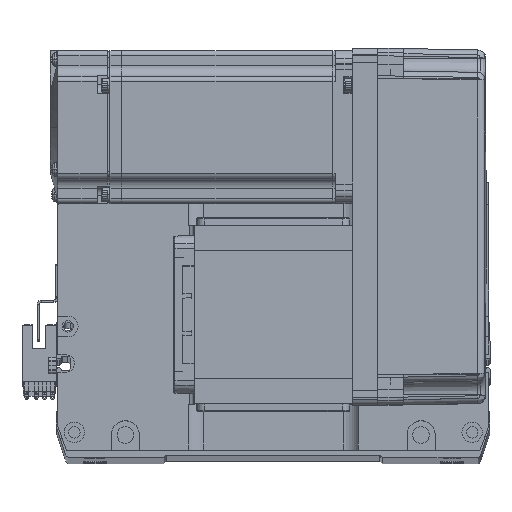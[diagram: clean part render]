
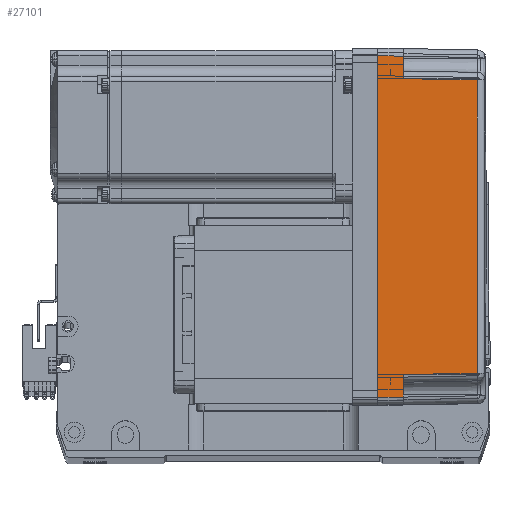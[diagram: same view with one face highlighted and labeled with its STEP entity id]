
A CAD part, top view. The second image highlights one B-rep face of the part: STEP entity #27101.
In plain terms, the highlighted planar face has unit normal (0.018, 0, 1) as drawn and (0, -1, 0.017) by its records, which use the part's own axes.
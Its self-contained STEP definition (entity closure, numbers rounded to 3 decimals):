
#195 = VERTEX_POINT ( 'NONE', #52566 ) ;
#225 = ORIENTED_EDGE ( 'NONE', *, *, #7938, .T. ) ;
#462 = CARTESIAN_POINT ( 'NONE',  ( 58., -35.825, 10. ) ) ;
#3130 = CARTESIAN_POINT ( 'NONE',  ( -57.495, -35.32, 38.985 ) ) ;
#4569 = CARTESIAN_POINT ( 'NONE',  ( 58., -35.825, 10. ) ) ;
#6523 = ORIENTED_EDGE ( 'NONE', *, *, #12428, .F. ) ;
#7794 = VERTEX_POINT ( 'NONE', #23386 ) ;
#7938 = EDGE_CURVE ( 'NONE', #195, #43065, #32891, .T. ) ;
#8952 = DIRECTION ( 'NONE',  ( 0.017, 0.017, 1. ) ) ;
#9005 = CARTESIAN_POINT ( 'NONE',  ( 70., -35.825, 10. ) ) ;
#9015 = CARTESIAN_POINT ( 'NONE',  ( -58., -35.825, 10. ) ) ;
#9218 = DIRECTION ( 'NONE',  ( -1., 0., 0. ) ) ;
#9553 = EDGE_CURVE ( 'NONE', #43288, #14108, #22553, .T. ) ;
#10868 = DIRECTION ( 'NONE',  ( -1., 0., 0. ) ) ;
#11189 = VECTOR ( 'NONE', #30077, 1000. ) ;
#12428 = EDGE_CURVE ( 'NONE', #195, #43288, #56541, .T. ) ;
#13372 = VECTOR ( 'NONE', #15906, 1000. ) ;
#14108 = VERTEX_POINT ( 'NONE', #28921 ) ;
#15906 = DIRECTION ( 'NONE',  ( -0.017, 0.017, 1. ) ) ;
#17460 = VECTOR ( 'NONE', #28997, 1000. ) ;
#18122 = CARTESIAN_POINT ( 'NONE',  ( 70., -36., 0. ) ) ;
#18382 = CARTESIAN_POINT ( 'NONE',  ( 57.495, -35.32, 38.985 ) ) ;
#18739 = VERTEX_POINT ( 'NONE', #9015 ) ;
#19005 = ORIENTED_EDGE ( 'NONE', *, *, #41580, .T. ) ;
#20267 = CARTESIAN_POINT ( 'NONE',  ( -67., -36., 0. ) ) ;
#20896 = CARTESIAN_POINT ( 'NONE',  ( 70., -35.825, 10. ) ) ;
#20923 = CARTESIAN_POINT ( 'NONE',  ( 67., -36., 0. ) ) ;
#22553 = LINE ( 'NONE', #48592, #25685 ) ;
#23386 = CARTESIAN_POINT ( 'NONE',  ( 57.495, -35.32, 38.985 ) ) ;
#23780 = CARTESIAN_POINT ( 'NONE',  ( 66.826, -35.825, 10. ) ) ;
#23934 = EDGE_CURVE ( 'NONE', #63087, #18739, #26843, .T. ) ;
#25685 = VECTOR ( 'NONE', #8952, 1000. ) ;
#25986 = B_SPLINE_CURVE_WITH_KNOTS ( 'NONE', 3,
 ( #18382, #48001, #42555, #53265 ),
 .UNSPECIFIED., .F., .F.,
 ( 4, 4 ),
 ( 0., 1. ),
 .UNSPECIFIED. ) ;
#26843 = LINE ( 'NONE', #39648, #17460 ) ;
#27101 = ADVANCED_FACE ( 'NONE', ( #40416 ), #28792, .T. ) ;
#28339 = EDGE_LOOP ( 'NONE', ( #225, #48020, #38127, #19005, #64681, #40634, #54933, #6523 ) ) ;
#28792 = PLANE ( 'NONE',  #64184 ) ;
#28921 = CARTESIAN_POINT ( 'NONE',  ( -66.826, -35.825, 10. ) ) ;
#28997 = DIRECTION ( 'NONE',  ( -0.017, -0.017, -1. ) ) ;
#30077 = DIRECTION ( 'NONE',  ( -0.017, 0.017, 1. ) ) ;
#32118 = VERTEX_POINT ( 'NONE', #4569 ) ;
#32891 = LINE ( 'NONE', #20923, #13372 ) ;
#33372 = DIRECTION ( 'NONE',  ( 0., -0.017, -1. ) ) ;
#34324 = LINE ( 'NONE', #9005, #49916 ) ;
#35376 = VECTOR ( 'NONE', #10868, 1000. ) ;
#38127 = ORIENTED_EDGE ( 'NONE', *, *, #60395, .T. ) ;
#39648 = CARTESIAN_POINT ( 'NONE',  ( -57.495, -35.32, 38.985 ) ) ;
#40416 = FACE_OUTER_BOUND ( 'NONE', #28339, .T. ) ;
#40634 = ORIENTED_EDGE ( 'NONE', *, *, #60393, .T. ) ;
#41580 = EDGE_CURVE ( 'NONE', #7794, #63087, #25986, .T. ) ;
#42555 = CARTESIAN_POINT ( 'NONE',  ( -19.165, -35.316, 39.181 ) ) ;
#43065 = VERTEX_POINT ( 'NONE', #23780 ) ;
#43288 = VERTEX_POINT ( 'NONE', #20267 ) ;
#44027 = VECTOR ( 'NONE', #48023, 1000. ) ;
#45642 = EDGE_CURVE ( 'NONE', #43065, #32118, #34324, .T. ) ;
#48001 = CARTESIAN_POINT ( 'NONE',  ( 19.165, -35.316, 39.181 ) ) ;
#48020 = ORIENTED_EDGE ( 'NONE', *, *, #45642, .T. ) ;
#48023 = DIRECTION ( 'NONE',  ( -1., 0., 0. ) ) ;
#48592 = CARTESIAN_POINT ( 'NONE',  ( -66.959, -35.958, 2.39 ) ) ;
#48611 = LINE ( 'NONE', #462, #11189 ) ;
#49916 = VECTOR ( 'NONE', #9218, 1000. ) ;
#52566 = CARTESIAN_POINT ( 'NONE',  ( 67., -36., 0. ) ) ;
#53265 = CARTESIAN_POINT ( 'NONE',  ( -57.495, -35.32, 38.985 ) ) ;
#54933 = ORIENTED_EDGE ( 'NONE', *, *, #9553, .F. ) ;
#56541 = LINE ( 'NONE', #57871, #44027 ) ;
#57871 = CARTESIAN_POINT ( 'NONE',  ( 0., -36., 0. ) ) ;
#58780 = LINE ( 'NONE', #20896, #35376 ) ;
#60393 = EDGE_CURVE ( 'NONE', #18739, #14108, #58780, .T. ) ;
#60395 = EDGE_CURVE ( 'NONE', #32118, #7794, #48611, .T. ) ;
#62873 = DIRECTION ( 'NONE',  ( 0., -1., 0.017 ) ) ;
#63087 = VERTEX_POINT ( 'NONE', #3130 ) ;
#64184 = AXIS2_PLACEMENT_3D ( 'NONE', #18122, #62873, #33372 ) ;
#64681 = ORIENTED_EDGE ( 'NONE', *, *, #23934, .T. ) ;
